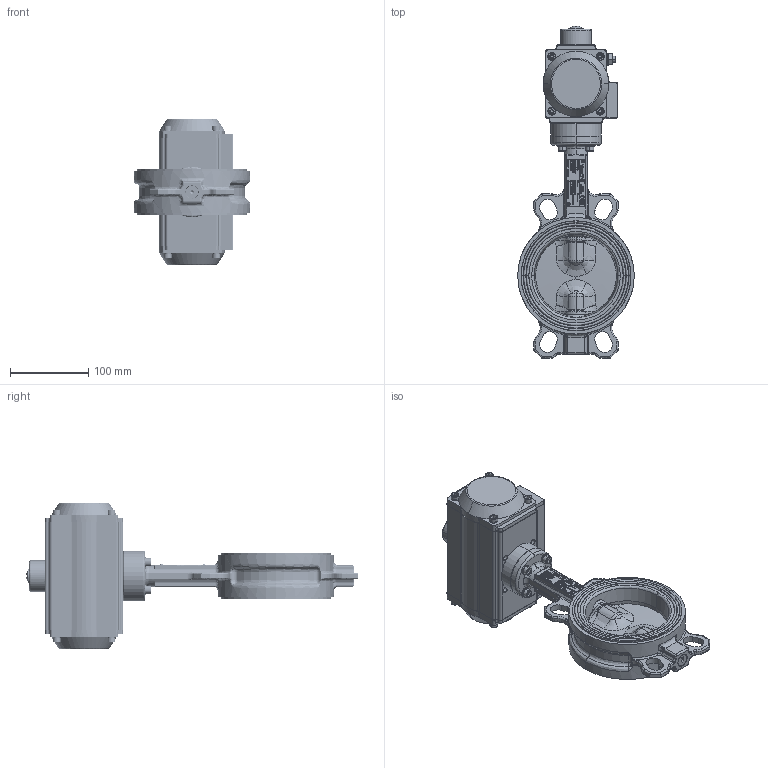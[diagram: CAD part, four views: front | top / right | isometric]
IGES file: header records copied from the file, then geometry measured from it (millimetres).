
Start section: SolidWorks IGES file using NURBS representation for surfaces
Global section: file name: H:\BE BIBLIOTHEQUE 3D\VPN-03 PNEUMATIC ACTUATOR (DN40 à 300)\VPN-03 DN100\VPN-03 DN100.IGS; native system: SolidWorks 2011; preprocessor: SolidWorks 2011; author: a.cartier; date: 140620.095916; units: millimetre
Bounding box: 149 x 424.12 x 186 mm (x, y, z)
Volume: 1445593 mm3; surface area: 438787.3 mm2
Topology: 68 solids, 68 shells, 5050 faces, 12892 edges, 8283 vertices
Faces by surface type: bspline 5050
